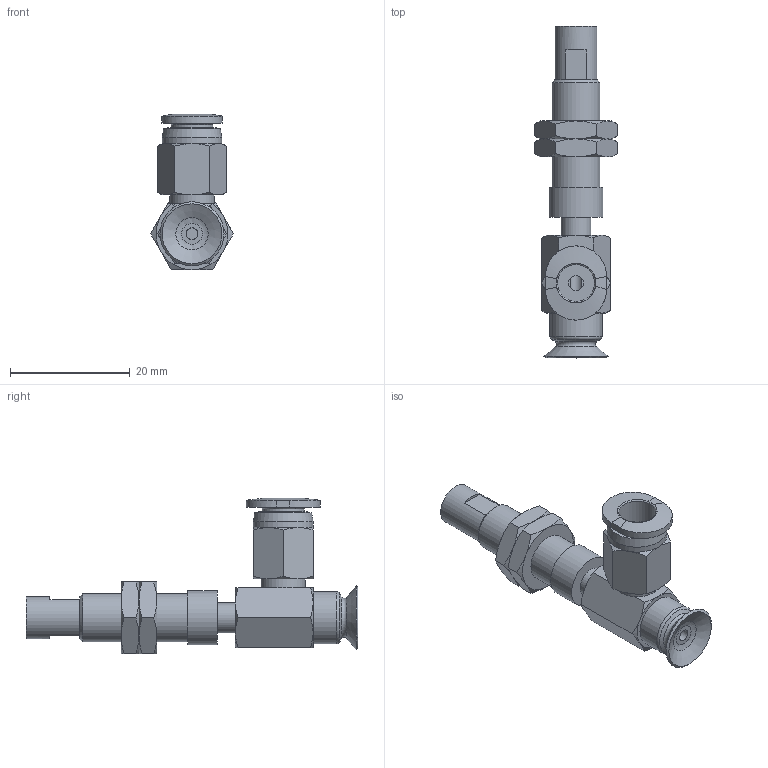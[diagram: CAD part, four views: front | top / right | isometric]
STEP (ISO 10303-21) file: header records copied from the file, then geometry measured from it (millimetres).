
FILE_DESCRIPTION(('STEP AP203'),'1');
FILE_NAME('-O.stp','2025-04-09T06:34:01',(' '),(' '),'Spatial InterOp 3D',' ',' ');
FILE_SCHEMA(('CONFIG_CONTROL_DESIGN'));
Length unit declared in the file: millimetre
Products named in the file (7): BNABPFYS-10A-3-※-O; CONNECTOR-10A-3; Nut-10A-3-s; NAPFTS-10A-3-FBODY; NAPFTS-10A-3-MBODY; BPFG-10A-※; PC-C_06-M5
Assembly tree (7 placements, depth 2):
  BNABPFYS-10A-3-※-O
    CONNECTOR-10A-3
    Nut-10A-3-s  x2
    NAPFTS-10A-3-FBODY
    NAPFTS-10A-3-MBODY
    BPFG-10A-※
    PC-C_06-M5
Bounding box: 13.86 x 55.5 x 25.98 mm (x, y, z)
Volume: 3378.3 mm3; surface area: 5144 mm2
Topology: 6 solids, 9 shells, 180 faces, 372 edges, 225 vertices
Faces by surface type: plane 69, cone 67, cylinder 26, torus 10, bspline 5, revolution 3
Full cylindrical faces by diameter (mm): 2 x2, 4 x4, 4.134 x2, 5 x4, 6 x2, 7 x2, 7.188 x2, 7.4 x1, 8 x1, 8.2 x1, 8.7 x1, 9 x1, 10 x1
Entity records: 4643 total; most frequent: CARTESIAN_POINT 1339, DIRECTION 615, ORIENTED_EDGE 522, AXIS2_PLACEMENT_3D 277, EDGE_CURVE 263, EDGE_LOOP 236, VERTEX_POINT 187, FACE_OUTER_BOUND 131
